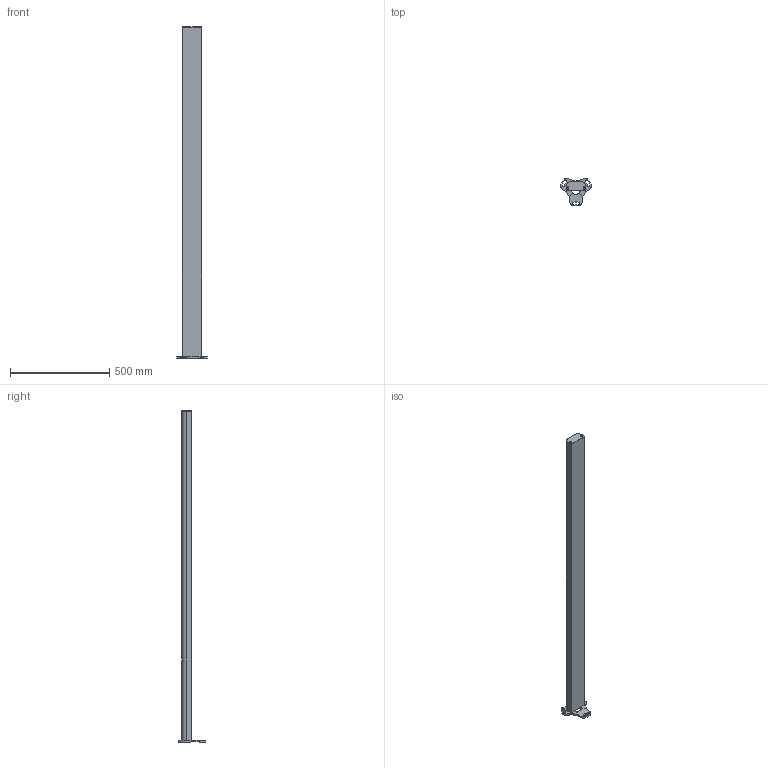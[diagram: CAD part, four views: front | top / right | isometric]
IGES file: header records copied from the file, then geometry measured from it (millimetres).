
Global section: file name: H305521_A_mirror_column_165_PSEN_opII_Kundendaten; native system: Autodesk Inventor 2017; preprocessor: unknown; author: damb; date: 20180405.142053; units: millimetre
Bounding box: 153.46 x 139.2 x 1673.25 mm (x, y, z)
Volume: 6981689.7 mm3; surface area: 479958 mm2
Topology: 3 solids, 3 shells, 135 faces, 368 edges, 245 vertices
Faces by surface type: bspline 135
